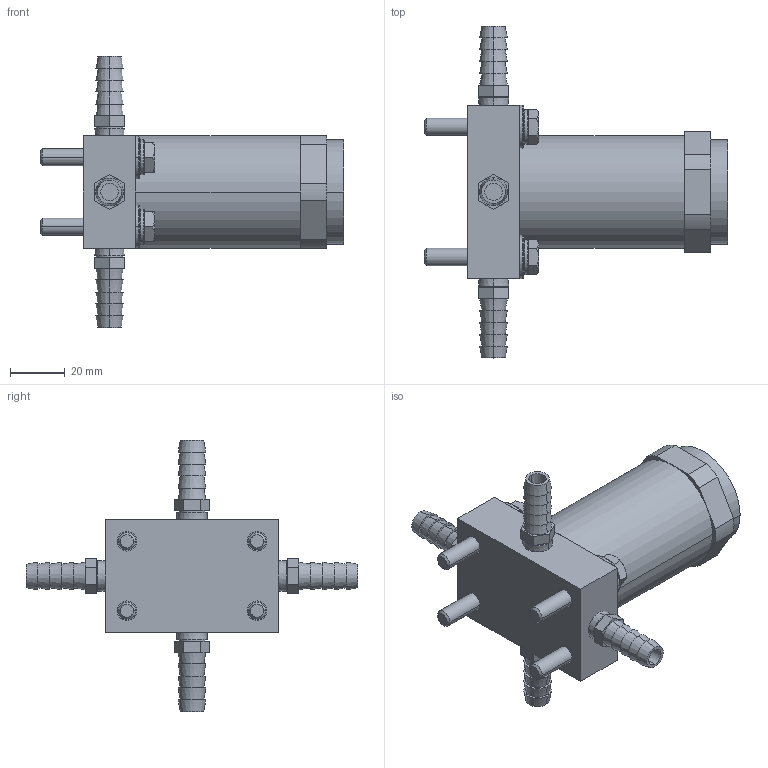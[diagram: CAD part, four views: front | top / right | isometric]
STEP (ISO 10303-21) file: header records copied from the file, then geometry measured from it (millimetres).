
FILE_DESCRIPTION((''),'2;1');
FILE_NAME('XLR4_ASM','2017-08-24T',('jennifer.elliott'),('CenterLine (Windsor) Ltd - Automation Components Division'),'PRO/ENGINEER BY PARAMETRIC TECHNOLOGY CORPORATION, 2015030','PRO/ENGINEER BY PARAMETRIC TECHNOLOGY CORPORATION, 2015030','');
FILE_SCHEMA(('AUTOMOTIVE_DESIGN { 1 0 10303 214 1 1 1 1 }'));
Length unit declared in the file: inch
Products named in the file (18): PRT1635; PRT1636; PRT1637; PRT1638; PRT1639; PRT1640; PRT1641; PRT1642; PRT1643; PRT1644; ASM0026_ASM; PRT1645; PRT1646; PRT1647; PRT1648; PRT1649; TMP_DWG-3DSOLID_98; XLR4_ASM
Assembly tree (17 placements, depth 3):
  XLR4_ASM
    PRT1635
    PRT1636
    PRT1637
    PRT1638
    PRT1639
    PRT1640
    ASM0026_ASM
      PRT1641
      PRT1642
      PRT1643
      PRT1644
    PRT1645
    PRT1646
    PRT1647
    PRT1648
    PRT1649
    TMP_DWG-3DSOLID_98
Bounding box: 111.12 x 121.41 x 99.19 mm (x, y, z)
Volume: 161846 mm3; surface area: 41989.5 mm2
Topology: 16 solids, 16 shells, 300 faces, 700 edges, 464 vertices
Faces by surface type: plane 134, cone 80, cylinder 62, torus 24
Entity records: 10165 total; most frequent: CARTESIAN_POINT 2004, DIRECTION 1622, ORIENTED_EDGE 1400, EDGE_CURVE 700, AXIS2_PLACEMENT_3D 671, VERTEX_POINT 464, EDGE_LOOP 356, CIRCLE 332
